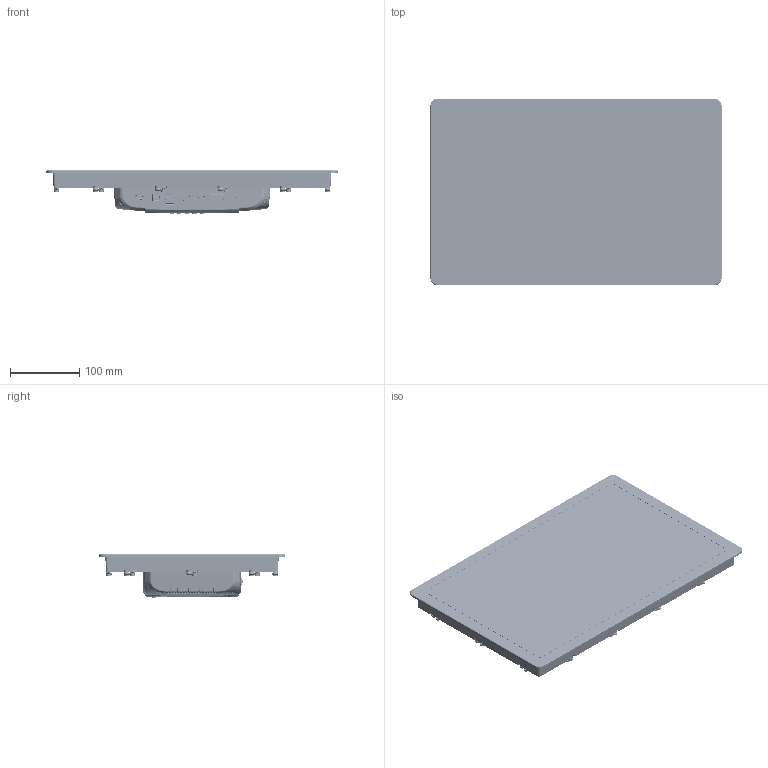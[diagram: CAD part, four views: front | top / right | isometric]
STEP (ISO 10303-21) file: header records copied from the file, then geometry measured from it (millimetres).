
FILE_DESCRIPTION(/* description */ (''),/* implementation_level */ '2;1');
FILE_NAME(/* name */ '15.6.stp',/* time_stamp */ '2026-03-11T16:14:53+08:00',/* author */ (''),/* organization */ (''),/* preprocessor_version */ 'ST-DEVELOPER v16',/* originating_system */ 'SIEMENS PLM Software NX 10.0',/* authorisation */ '');
FILE_SCHEMA (('AP203_CONFIGURATION_CONTROLLED_3D_DESIGN_OF_MECHANICAL_PARTS_AND_ASSEMBLIES_MIM_LF { 1 0 10303 403 2 1 2}'));
Products named in the file (1): Admi03F87D75ps28
Bounding box: 420 x 269 x 63.1 mm (x, y, z)
Volume: 837321.8 mm3; surface area: 761736 mm2
Topology: 172 solids, 186 shells, 15504 faces, 38253 edges, 23238 vertices
Faces by surface type: plane 5908, cylinder 5263, bspline 2662, torus 958, cone 373, sphere 340
Full cylindrical faces by diameter (mm): 4.2 x4, 4.5 x15, 5.4 x4, 6 x14, 7 x14
Entity records: 592146 total; most frequent: CARTESIAN_POINT 259237, ORIENTED_EDGE 75534, DIRECTION 60850, EDGE_CURVE 37767, VERTEX_POINT 23193, AXIS2_PLACEMENT_3D 21524, LINE 17802, VECTOR 17802
